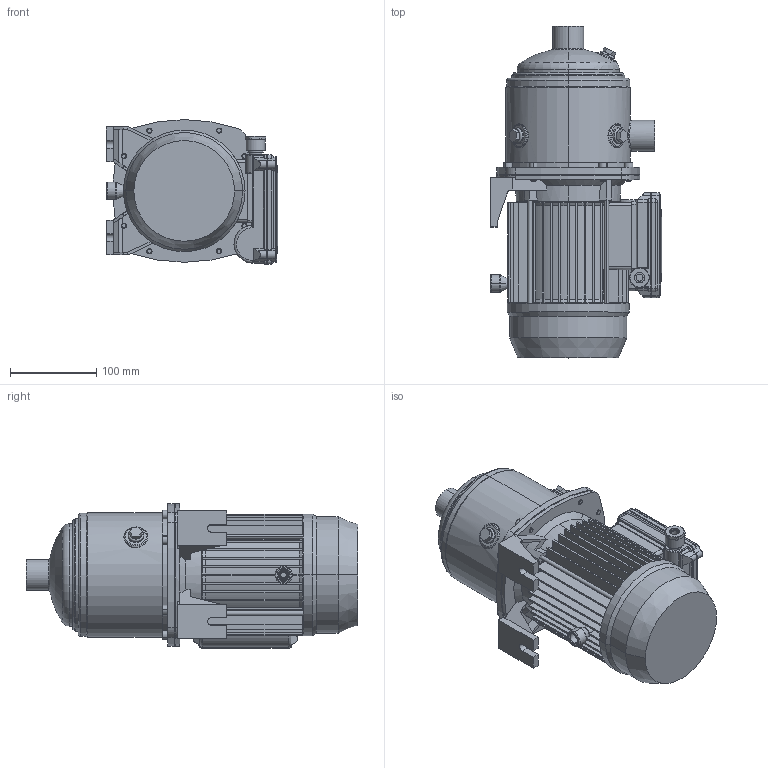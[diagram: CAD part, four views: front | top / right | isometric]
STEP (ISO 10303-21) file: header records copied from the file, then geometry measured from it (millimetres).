
FILE_DESCRIPTION((''),'2;1');
FILE_NAME('MATRIX_3-4T_0_65_M_ASM','2017-04-07T',('rosa'),('"Ebara Pumps Europe +39.444.706811"'),'PRO/ENGINEER BY PARAMETRIC TECHNOLOGY CORPORATION, 2012130','PRO/ENGINEER BY PARAMETRIC TECHNOLOGY CORPORATION, 2012130','');
FILE_SCHEMA(('AUTOMOTIVE_DESIGN { 1 0 10303 214 1 1 1 1 }'));
Length unit declared in the file: millimetre
Products named in the file (6): CORPO_POMPA_MATRIX_3-4; SUPPORTO_MATRIX_MEC_71; MEC_71_PACCO_90_MONOFASE; 72228; COPRIMORS_MEC63-71_MONOFASE_M4; MATRIX_3-4T_0_65_M_ASM
Assembly tree (5 placements, depth 2):
  MATRIX_3-4T_0_65_M_ASM
    CORPO_POMPA_MATRIX_3-4
    SUPPORTO_MATRIX_MEC_71
    MEC_71_PACCO_90_MONOFASE
    72228
    COPRIMORS_MEC63-71_MONOFASE_M4
Bounding box: 198 x 383.8 x 167.5 mm (x, y, z)
Volume: 4357647 mm3; surface area: 511556.8 mm2
Topology: 5 solids, 5 shells, 938 faces, 2262 edges, 1388 vertices
Faces by surface type: plane 455, cylinder 277, cone 126, torus 39, bspline 31, sphere 10
Entity records: 37417 total; most frequent: CARTESIAN_POINT 7922, DIRECTION 4686, ORIENTED_EDGE 4524, EDGE_CURVE 2262, PRESENTATION_STYLE_ASSIGNMENT 2216, STYLED_ITEM 2216, CURVE_STYLE 2212, AXIS2_PLACEMENT_3D 1777
